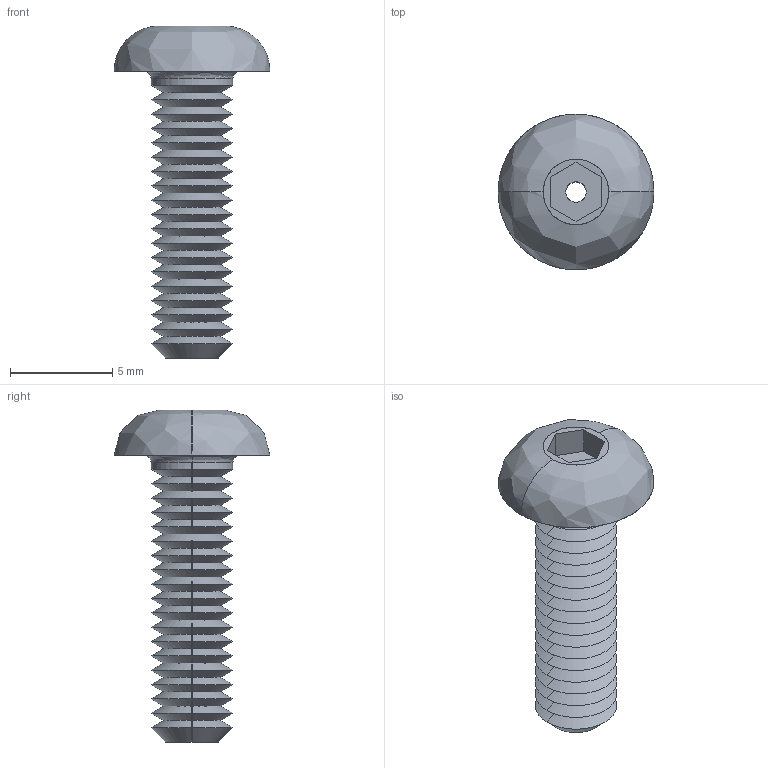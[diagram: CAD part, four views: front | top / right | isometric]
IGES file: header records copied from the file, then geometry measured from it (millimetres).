
Start section: SolidWorks IGES file using analytic representation for surfaces
Global section: file name: C:\Users\liam_\OneDrive\Documents\WORK\Work for WixRoyd\Job Files\J-00019 - Matt Davis CAD Checking\04. CAD Drawings\automotion20190605\P0094_v2\P0094_v2_20190712_IGES\P0094.040-014-A2.igs; native system: SolidWorks 2017; preprocessor: SolidWorks 2017; author: liam_; date: 190712.175252; units: millimetre
Bounding box: 7.6 x 7.6 x 16.2 mm (x, y, z)
Surface area: 453.7 mm2 (no closed solid volume)
Topology: 0 solids, 0 shells, 92 faces, 524 edges, 524 vertices
Faces by surface type: revolution 78, bspline 14
